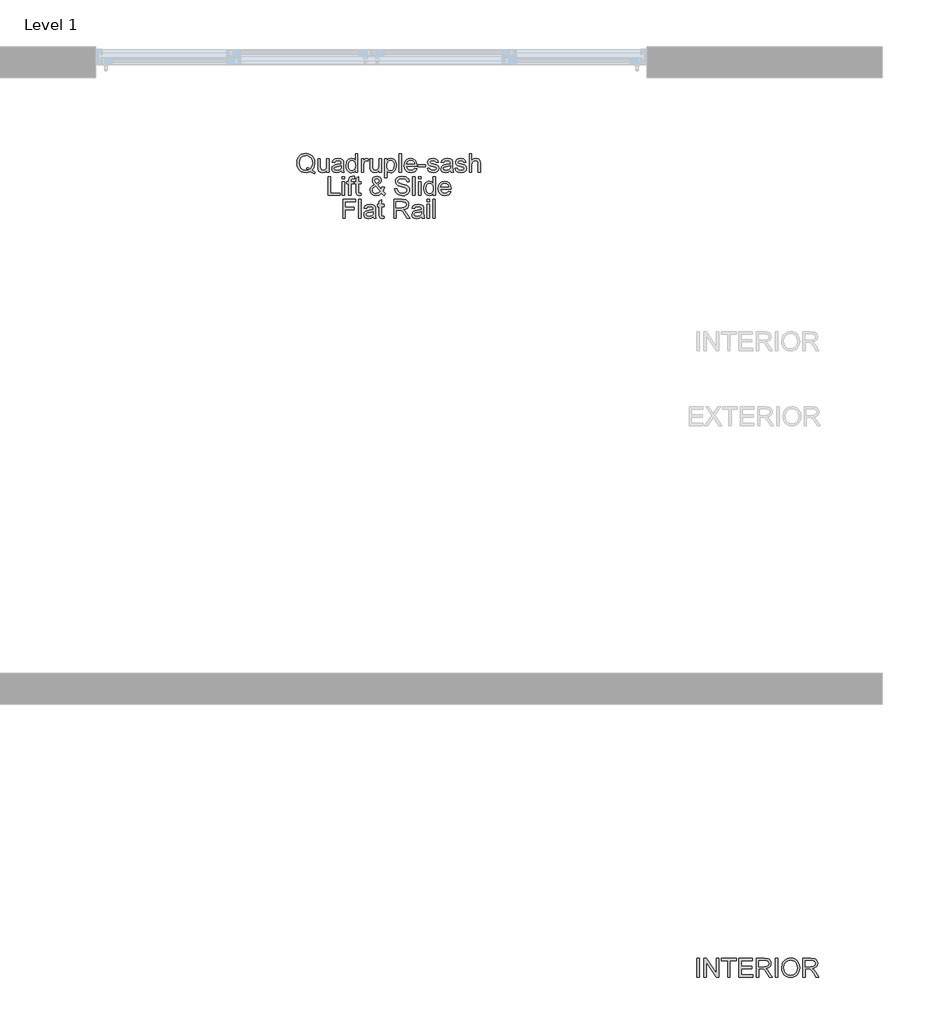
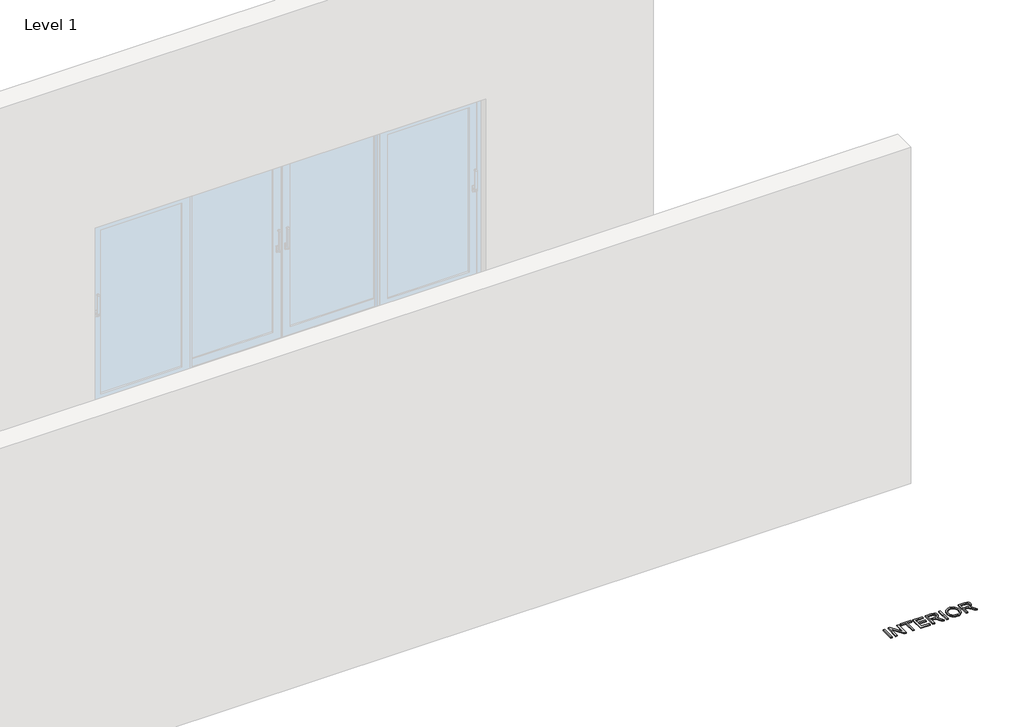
# One storey, part 10 of 11: 2 proxies.
"""IFC4 building model written with IfcOpenShell, lengths in millimetres."""

from ifc_helpers import new_model, si_unit, origin, origin_with_axes, place, context, project, spatial, polyline, outline, extrude, element, save

model = new_model("IFC4")

# Units and contexts
model_context = context("Model", 3, world=origin())
ifc_project = project(units=[si_unit("LENGTHUNIT", "METRE", prefix="MILLI")], contexts=[model_context])

# Site, building, storey
site = spatial("IfcSite", under=ifc_project)
building = spatial("IfcBuilding", under=site)
storey = spatial("IfcBuildingStorey", under=building, Name="Level 1", Elevation=0.0)

# Proxies
placement = place(None, origin())
element("IfcBuildingElementProxy", 1, Name="150mm Arial", ObjectType="150mm Arial", at=placement, inside=storey, context=model_context, shape_type="SweptSolid", body=[
    extrude(outline(polyline([(26177.951692, -7318.7131538), (26177.951692, -7168.0286886), (26196.7872501, -7168.0286886), (26196.7872501, -7318.7131538), (26177.951692, -7318.7131538)])), origin_with_axes(), (0.0, 0.0, 1.0), 10.0),
    extrude(outline(polyline([(26234.4583664, -7318.7131538), (26234.4583664, -7168.0286886), (26254.6182998, -7168.0286886), (26333.3450467, -7287.4063961), (26333.3450467, -7168.0286886), (26352.1806049, -7168.0286886), (26352.1806049, -7318.7131538), (26332.0206715, -7318.7131538), (26253.2939246, -7199.2986582), (26253.2939246, -7318.7131538), (26234.4583664, -7318.7131538)])), origin_with_axes(), (0.0, 0.0, 1.0), 10.0),
    extrude(outline(polyline([(26422.8139479, -7318.7131538), (26422.8139479, -7186.8642468), (26373.3706078, -7186.8642468), (26373.3706078, -7168.0286886), (26491.0928463, -7168.0286886), (26491.0928463, -7186.8642468), (26441.6495061, -7186.8642468), (26441.6495061, -7318.7131538), (26422.8139479, -7318.7131538)])), origin_with_axes(), (0.0, 0.0, 1.0), 10.0),
    extrude(outline(polyline([(26512.2828492, -7318.7131538), (26512.2828492, -7168.0286886), (26620.5873086, -7168.0286886), (26620.5873086, -7186.8642468), (26531.1184073, -7186.8642468), (26531.1184073, -7231.5986974), (26615.878419, -7231.5986974), (26615.878419, -7250.4342555), (26531.1184073, -7250.4342555), (26531.1184073, -7299.8775957), (26622.9417533, -7299.8775957), (26622.9417533, -7318.7131538), (26512.2828492, -7318.7131538)])), origin_with_axes(), (0.0, 0.0, 1.0), 10.0),
    extrude(outline(polyline([(26651.1950906, -7318.7131538), (26651.1950906, -7168.0286886), (26716.1262627, -7168.0286886), (26746.2741922, -7172.0937847), (26755.5540155, -7177.7223792), (26762.7553056, -7186.4779707), (26767.3768232, -7197.3350881), (26768.917329, -7209.2682603), (26766.3651477, -7224.1122988), (26758.7086036, -7236.4179515), (26745.7177707, -7245.4402575), (26727.1627226, -7250.4342555), (26737.8680886, -7258.4908712), (26753.1351914, -7277.8782524), (26778.2615317, -7318.7131538), (26756.372553, -7318.7131538), (26736.7644426, -7287.4799725), (26722.6009858, -7266.8050043), (26712.6497778, -7257.0377374), (26703.6918513, -7253.4508879), (26692.765756, -7252.7887003), (26670.0306487, -7252.7887003), (26670.0306487, -7318.7131538), (26651.1950906, -7318.7131538)]), holes=[polyline([(26670.0306487, -7233.9531422), (26712.1899254, -7233.9531422), (26733.692628, -7231.2859977), (26745.9063102, -7222.7511354), (26750.0817709, -7209.9672361), (26748.0906096, -7200.7793832), (26742.1171257, -7193.3757581), (26731.8394224, -7188.4921246), (26716.9356031, -7186.8642468), (26670.0306487, -7186.8642468), (26670.0306487, -7233.9531422)])]), origin_with_axes(), (0.0, 0.0, 1.0), 10.0),
    extrude(outline(polyline([(26804.2340005, -7318.7131538), (26804.2340005, -7168.0286886), (26823.0695587, -7168.0286886), (26823.0695587, -7318.7131538), (26804.2340005, -7318.7131538)])), origin_with_axes(), (0.0, 0.0, 1.0), 10.0),
    extrude(outline(polyline([(26853.6773407, -7245.357484), (26858.6989299, -7212.0365723), (26864.9759165, -7198.4180407), (26873.7636976, -7186.8274586), (26896.7655194, -7170.9625475), (26925.5982708, -7165.6742438), (26945.3627309, -7168.1574473), (26963.0854461, -7175.6070577), (26977.8007259, -7187.4988432), (26988.5428801, -7203.308572), (26995.1095737, -7222.2728888), (26997.2984716, -7243.6284386), (26994.9946106, -7265.269097), (26988.0830276, -7284.5001283), (26976.9454002, -7300.3374482), (26961.963406, -7311.7969723), (26944.3924422, -7318.749942), (26925.4879062, -7321.0675986), (26905.4199433, -7318.5062202), (26887.5960607, -7310.822085), (26872.917569, -7298.7095704), (26862.2857794, -7282.8630534), (26855.8294504, -7264.629902), (26853.6773407, -7245.357484)]), holes=[polyline([(26872.5128989, -7245.541425), (26876.2790908, -7269.1134638), (26887.5776666, -7287.0753023), (26904.5600192, -7298.4428559), (26925.3775416, -7302.2320405), (26946.4985666, -7298.4060677), (26963.5085104, -7286.9281495), (26974.7243127, -7268.4144881), (26978.4629135, -7243.4812858), (26976.8626268, -7226.8070344), (26972.0617667, -7212.3952572), (26964.1844935, -7200.6092378), (26953.3549673, -7191.8122596), (26940.2905579, -7186.3354164), (26925.7086354, -7184.509802), (26905.4475345, -7188.0276736), (26888.22146, -7198.5812883), (26876.4400392, -7217.3570656), (26872.5128989, -7245.541425)])]), origin_with_axes(), (0.0, 0.0, 1.0), 10.0),
    extrude(outline(polyline([(27023.1973641, -7318.7131538), (27023.1973641, -7168.0286886), (27088.1285362, -7168.0286886), (27118.2764657, -7172.0937847), (27127.5562891, -7177.7223792), (27134.7575791, -7186.4779707), (27139.3790967, -7197.3350881), (27140.9196025, -7209.2682603), (27138.3674212, -7224.1122988), (27130.7108772, -7236.4179515), (27117.7200442, -7245.4402575), (27099.1649961, -7250.4342555), (27109.8703621, -7258.4908712), (27125.1374649, -7277.8782524), (27150.2638052, -7318.7131538), (27128.3748265, -7318.7131538), (27108.7667162, -7287.4799725), (27094.6032593, -7266.8050043), (27084.6520514, -7257.0377374), (27075.6941248, -7253.4508879), (27064.7680295, -7252.7887003), (27042.0329222, -7252.7887003), (27042.0329222, -7318.7131538), (27023.1973641, -7318.7131538)]), holes=[polyline([(27042.0329222, -7233.9531422), (27084.1921989, -7233.9531422), (27105.6949015, -7231.2859977), (27117.9085837, -7222.7511354), (27122.0840444, -7209.9672361), (27120.0928831, -7200.7793832), (27114.1193992, -7193.3757581), (27103.8416959, -7188.4921246), (27088.9378766, -7186.8642468), (27042.0329222, -7186.8642468), (27042.0329222, -7233.9531422)])]), origin_with_axes(), (0.0, 0.0, 1.0), 10.0),
])
element("IfcBuildingElementProxy", 2, Name="150mm Arial", ObjectType="150mm Arial", at=placement, inside=storey, context=model_context, shape_type="SweptSolid", body=[
    extrude(outline(polyline([(23104.9272219, -879.5997474), (23128.2877286, -895.3083086), (23123.210957, -909.1038834), (23092.1985048, -891.4823358), (23074.7700953, -897.8834825), (23055.5942463, -900.0171981), (23036.3264268, -897.5569873), (23018.9164114, -890.1763547), (23004.3344888, -878.3397515), (22993.5509478, -862.5116287), (22986.8876852, -843.5611074), (22984.6665977, -822.3573089), (22986.8830867, -801.1351163), (22993.5325537, -781.9086836), (23004.274708, -765.855233), (23018.7692586, -754.151987), (23036.1148947, -747.0058793), (23055.4103053, -744.6238433), (23074.8574673, -747.0610616), (23092.2904753, -754.3727162), (23106.7620333, -766.0713637), (23117.3248451, -781.6695603), (23123.7811741, -800.3395715), (23125.9332838, -821.2536629), (23120.7093595, -854.1791015), (23114.1518629, -867.8367206), (23104.9272219, -879.5997474)]), holes=[polyline([(23060.7813825, -854.5469835), (23076.6187023, -860.534263), (23089.4026017, -868.8575931), (23102.6739447, -849.4334238), (23107.0977256, -822.2101561), (23105.5342272, -805.6324737), (23100.8437317, -791.2896744), (23093.1412025, -779.5450417), (23082.5416025, -770.7618591), (23069.7623017, -765.2850159), (23055.5206699, -763.4594015), (23034.9928546, -767.152017), (23018.291012, -778.2298636), (23007.1993699, -796.6377589), (23003.5021558, -822.3205207), (23007.1579831, -847.4514595), (23018.1254651, -865.9697195), (23034.7767239, -877.3786598), (23055.4838817, -881.18164), (23075.7541797, -877.318879), (23055.9253401, -868.9679577), (23060.7813825, -854.5469835)])]), origin_with_axes(), (0.0, 0.0, 1.0), 10.0),
    extrude(outline(polyline([(23222.4655193, -897.6627533), (23222.4655193, -878.6432542), (23207.7134513, -894.6737121), (23188.473223, -900.0171981), (23170.7597049, -896.2648018), (23158.5460227, -886.8470227), (23152.9358222, -872.9778715), (23151.8321763, -855.4666885), (23151.8321763, -787.0038492), (23170.6677344, -787.0038492), (23170.6677344, -846.6007324), (23171.8081686, -865.8041726), (23179.257779, -877.0797557), (23193.2924771, -881.18164), (23209.0194324, -876.9877852), (23219.4120988, -865.5650493), (23222.4655193, -844.5773814), (23222.4655193, -787.0038492), (23241.3010775, -787.0038492), (23241.3010775, -897.6627533), (23222.4655193, -897.6627533)])), origin_with_axes(), (0.0, 0.0, 1.0), 10.0),
    extrude(outline(polyline([(23337.833313, -883.5360847), (23319.567972, -896.30159), (23299.3896445, -900.0171981), (23283.6488937, -897.782315), (23272.0376182, -891.0776656), (23264.8777149, -880.8965314), (23262.4910804, -868.2321937), (23266.096324, -853.3329729), (23275.5692853, -842.5172423), (23288.7578549, -836.3368247), (23305.0550273, -833.5041334), (23337.7229484, -827.0294103), (23337.833313, -822.8355555), (23336.536529, -814.4294519), (23332.6461769, -808.9296161), (23323.9457677, -804.846126), (23311.824056, -803.4849626), (23292.7677686, -807.1086002), (23283.6810833, -819.966076), (23264.8455252, -817.6116312), (23272.9941114, -799.2175314), (23289.4016484, -788.438589), (23314.2520771, -784.6494044), (23337.0791549, -787.9971306), (23349.9734189, -796.4032342), (23355.7491662, -809.1871335), (23356.6688712, -825.6682469), (23356.6688712, -849.10233), (23357.6253644, -881.8254334), (23361.3777607, -897.6627533), (23342.5422026, -897.6627533), (23337.833313, -883.5360847)]), holes=[polyline([(23337.833313, -845.8649684), (23307.4462602, -851.6407157), (23291.2410583, -854.6941363), (23283.9018125, -859.6605432), (23281.3266386, -866.9078185), (23286.936839, -877.0981498), (23303.3995583, -881.18164), (23322.4558456, -876.6750855), (23334.7431043, -865.7673844), (23337.7229484, -851.1992574), (23337.833313, -845.8649684)])]), origin_with_axes(), (0.0, 0.0, 1.0), 10.0),
    extrude(outline(polyline([(23450.8466619, -897.6627533), (23450.8466619, -879.894053), (23438.3846594, -894.9864118), (23421.1585849, -900.0171981), (23408.9816909, -898.1961822), (23397.8348664, -892.7331346), (23388.3986933, -884.0097328), (23381.3537531, -872.4076544), (23376.9667603, -858.3959489), (23375.5044293, -842.4436659), (23380.8939006, -812.4612833), (23387.6261411, -800.5694978), (23397.0439201, -791.8231033), (23408.4344664, -786.4428292), (23421.0850085, -784.6494044), (23438.4490387, -789.7813583), (23450.8466619, -803.1170806), (23450.8466619, -746.9782881), (23469.6822201, -746.9782881), (23469.6822201, -897.6627533), (23450.8466619, -897.6627533)]), holes=[polyline([(23394.3399875, -842.3700895), (23396.464506, -859.4076244), (23402.8380616, -871.5247376), (23412.0994908, -878.7674144), (23422.8876303, -881.18164), (23433.6711713, -878.877779), (23442.6980757, -871.966196), (23448.8095154, -860.3181323), (23450.8466619, -843.8048292), (23448.7727272, -825.7510203), (23442.5509229, -813.2338354), (23433.2940922, -805.9221808), (23422.1150781, -803.4849626), (23411.216574, -805.8256118), (23402.2862386, -812.8475594), (23396.3265503, -824.9094903), (23394.3399875, -842.3700895)])]), origin_with_axes(), (0.0, 0.0, 1.0), 10.0),
    extrude(outline(polyline([(23497.9355573, -897.6627533), (23497.9355573, -787.0038492), (23514.4166707, -787.0038492), (23514.4166707, -803.374598), (23526.1153182, -788.2914362), (23537.887542, -784.6494044), (23556.7966766, -790.4619399), (23550.5058944, -807.3477235), (23537.2621426, -803.4849626), (23526.6119588, -807.2005707), (23519.824536, -817.5012666), (23516.7711155, -839.5006099), (23516.7711155, -897.6627533), (23497.9355573, -897.6627533)])), origin_with_axes(), (0.0, 0.0, 1.0), 10.0),
    extrude(outline(polyline([(23639.2022435, -897.6627533), (23639.2022435, -878.6432542), (23624.4501755, -894.6737121), (23605.2099471, -900.0171981), (23587.496429, -896.2648018), (23575.2827468, -886.8470227), (23569.6725464, -872.9778715), (23568.5689004, -855.4666885), (23568.5689004, -787.0038492), (23587.4044585, -787.0038492), (23587.4044585, -846.6007324), (23588.5448927, -865.8041726), (23595.9945031, -877.0797557), (23610.0292013, -881.18164), (23625.7561565, -876.9877852), (23636.1488229, -865.5650493), (23639.2022435, -844.5773814), (23639.2022435, -787.0038492), (23658.0378016, -787.0038492), (23658.0378016, -897.6627533), (23639.2022435, -897.6627533)])), origin_with_axes(), (0.0, 0.0, 1.0), 10.0),
    extrude(outline(polyline([(23683.9366941, -940.0427592), (23683.9366941, -787.0038492), (23702.7722522, -787.0038492), (23702.7722522, -805.4715254), (23715.7952749, -789.8549347), (23733.3800342, -784.6494044), (23746.1179483, -786.4704203), (23757.2555757, -791.9334679), (23766.3238669, -800.7074535), (23772.8537723, -812.4612833), (23778.1144848, -841.4871727), (23776.6291613, -857.5958055), (23772.1731906, -872.0029842), (23764.8891271, -883.9775431), (23754.9195251, -892.7883169), (23743.3082496, -898.2099778), (23731.0991659, -900.0171981), (23714.710023, -895.1795499), (23702.7722522, -882.9474735), (23702.7722522, -940.0427592), (23683.9366941, -940.0427592)]), holes=[polyline([(23702.7722522, -843.2162181), (23704.8093988, -860.1020016), (23710.9208384, -871.9110137), (23719.9385458, -878.8639834), (23730.6944957, -881.18164), (23741.6251895, -878.7812099), (23750.8728231, -871.5799199), (23757.1774008, -859.3386465), (23759.2789267, -841.8182665), (23757.2279846, -825.0244534), (23751.0751582, -813.0498945), (23742.0712464, -805.8761955), (23731.4670479, -803.4849626), (23720.8214626, -806.0279469), (23711.4726614, -813.6568997), (23704.9473545, -826.1326979), (23702.7722522, -843.2162181)])]), origin_with_axes(), (0.0, 0.0, 1.0), 10.0),
    extrude(outline(polyline([(23799.3044878, -897.6627533), (23799.3044878, -746.9782881), (23818.1400459, -746.9782881), (23818.1400459, -897.6627533), (23799.3044878, -897.6627533)])), origin_with_axes(), (0.0, 0.0, 1.0), 10.0),
    extrude(outline(polyline([(23923.8693313, -864.7005266), (23942.3370075, -867.0549713), (23935.6829419, -880.9701078), (23925.0649478, -891.3719712), (23910.7221485, -897.8558914), (23892.8936673, -900.0171981), (23870.7931565, -896.2877944), (23853.7878113, -885.0995832), (23842.9444894, -867.1791315), (23839.3300488, -843.2530063), (23842.9812776, -818.5221391), (23853.9349641, -800.0268718), (23870.710383, -788.4937713), (23891.8268096, -784.6494044), (23912.285647, -788.4845742), (23928.6334032, -799.9900836), (23939.3525648, -818.4485627), (23942.9256187, -843.1426417), (23942.8152541, -848.2194132), (23858.165607, -848.2194132), (23861.4259612, -862.3184907), (23868.9997318, -872.6835659), (23879.9304255, -879.0571214), (23893.2615493, -881.18164), (23911.7292255, -877.2453026), (23923.8693313, -864.7005266)]), holes=[polyline([(23858.165607, -829.383855), (23924.0900605, -829.383855), (23921.5424777, -819.4326471), (23916.5484796, -812.3141305), (23905.5672021, -805.6922545), (23891.7532332, -803.4849626), (23879.0567058, -805.2461976), (23868.5582734, -810.5299028), (23861.2604143, -818.765861), (23858.165607, -829.383855)])]), origin_with_axes(), (0.0, 0.0, 1.0), 10.0),
    extrude(outline(polyline([(23952.3433978, -852.9283027), (23952.3433978, -834.0927446), (24011.204517, -834.0927446), (24011.204517, -852.9283027), (23952.3433978, -852.9283027)])), origin_with_axes(), (0.0, 0.0, 1.0), 10.0),
    extrude(outline(polyline([(24025.3311856, -864.7005266), (24044.1667438, -862.3460818), (24047.1373909, -870.4026975), (24052.885547, -876.3255976), (24072.8615394, -881.18164), (24092.0649795, -876.7302678), (24098.3189735, -866.2824192), (24096.7462779, -861.4815591), (24092.0281913, -857.8211333), (24072.6408102, -852.4500561), (24044.2771084, -843.2346122), (24031.8978792, -832.4740638), (24027.6856304, -817.2805374), (24031.0701447, -803.2458393), (24040.3039828, -792.5220791), (24052.2785418, -786.9486669), (24068.4837436, -784.6494044), (24091.4027919, -788.3466185), (24105.9709189, -798.3530087), (24112.4456421, -815.2571864), (24093.6100839, -817.6116312), (24086.5283555, -807.2189648), (24069.9552716, -803.4849626), (24051.9290539, -807.0534179), (24046.5211885, -815.367551), (24048.7652687, -820.8489927), (24055.7918148, -825.0060593), (24072.0154108, -829.015973), (24099.6617427, -837.8819291), (24112.5008244, -847.9251076), (24117.1545316, -864.2958564), (24111.691484, -882.3220741), (24095.9277405, -895.4002791), (24072.604022, -900.0171981), (24053.612114, -897.791512), (24039.7521598, -891.1144538), (24030.4999276, -880.0595999), (24025.3311856, -864.7005266)])), origin_with_axes(), (0.0, 0.0, 1.0), 10.0),
    extrude(outline(polyline([(24208.9778776, -883.5360847), (24190.7125365, -896.30159), (24170.5342091, -900.0171981), (24154.7934582, -897.782315), (24143.1821828, -891.0776656), (24136.0222794, -880.8965314), (24133.635645, -868.2321937), (24137.2408885, -853.3329729), (24146.7138499, -842.5172423), (24159.9024194, -836.3368247), (24176.1995918, -833.5041334), (24208.867513, -827.0294103), (24208.9778776, -822.8355555), (24207.6810936, -814.4294519), (24203.7907415, -808.9296161), (24195.0903323, -804.846126), (24182.9686205, -803.4849626), (24163.9123332, -807.1086002), (24154.8256479, -819.966076), (24135.9900898, -817.6116312), (24144.1386759, -799.2175314), (24160.5462129, -788.438589), (24185.3966417, -784.6494044), (24208.2237195, -787.9971306), (24221.1179834, -796.4032342), (24226.8937308, -809.1871335), (24227.8134358, -825.6682469), (24227.8134358, -849.10233), (24228.7699289, -881.8254334), (24232.5223253, -897.6627533), (24213.6867671, -897.6627533), (24208.9778776, -883.5360847)]), holes=[polyline([(24208.9778776, -845.8649684), (24178.5908248, -851.6407157), (24162.3856229, -854.6941363), (24155.0463771, -859.6605432), (24152.4712031, -866.9078185), (24158.0814036, -877.0981498), (24174.5441229, -881.18164), (24193.6004102, -876.6750855), (24205.8876688, -865.7673844), (24208.867513, -851.1992574), (24208.9778776, -845.8649684)])]), origin_with_axes(), (0.0, 0.0, 1.0), 10.0),
    extrude(outline(polyline([(24246.6489939, -864.7005266), (24265.4845521, -862.3460818), (24268.4551992, -870.4026975), (24274.2033553, -876.3255976), (24294.1793477, -881.18164), (24313.3827878, -876.7302678), (24319.6367817, -866.2824192), (24318.0640862, -861.4815591), (24313.3459996, -857.8211333), (24293.9586185, -852.4500561), (24265.5949167, -843.2346122), (24253.2156875, -832.4740638), (24249.0034387, -817.2805374), (24252.387953, -803.2458393), (24261.6217911, -792.5220791), (24273.5963501, -786.9486669), (24289.8015519, -784.6494044), (24312.7206002, -788.3466185), (24327.2887272, -798.3530087), (24333.7634504, -815.2571864), (24314.9278922, -817.6116312), (24307.8461638, -807.2189648), (24291.2730799, -803.4849626), (24273.2468622, -807.0534179), (24267.8389968, -815.367551), (24270.083077, -820.8489927), (24277.1096231, -825.0060593), (24293.3332191, -829.015973), (24320.979551, -837.8819291), (24333.8186327, -847.9251076), (24338.4723399, -864.2958564), (24333.0092923, -882.3220741), (24317.2455488, -895.4002791), (24293.9218303, -900.0171981), (24274.9299223, -897.791512), (24261.0699681, -891.1144538), (24251.8177359, -880.0595999), (24246.6489939, -864.7005266)])), origin_with_axes(), (0.0, 0.0, 1.0), 10.0),
    extrude(outline(polyline([(24359.6623428, -897.6627533), (24359.6623428, -746.9782881), (24378.497901, -746.9782881), (24378.497901, -802.3813166), (24393.1855896, -789.0823825), (24411.2761867, -784.6494044), (24432.4294015, -789.4870527), (24445.2684831, -802.8595632), (24449.1312441, -827.6180215), (24449.1312441, -897.6627533), (24430.2956859, -897.6627533), (24430.2956859, -829.567796), (24428.7965668, -817.7771781), (24424.2992094, -809.7021683), (24417.0519341, -805.039264), (24407.3030612, -803.4849626), (24391.8704115, -807.6788173), (24381.5697156, -819.046371), (24378.497901, -838.8752105), (24378.497901, -897.6627533), (24359.6623428, -897.6627533)])), origin_with_axes(), (0.0, 0.0, 1.0), 10.0),
    extrude(outline(polyline([(23233.0605208, -1080.6249801), (23233.0605208, -929.9405149), (23251.8960789, -929.9405149), (23251.8960789, -1061.789422), (23327.2383116, -1061.789422), (23327.2383116, -1080.6249801), (23233.0605208, -1080.6249801)])), origin_with_axes(), (0.0, 0.0, 1.0), 10.0),
    extrude(outline(polyline([(23346.0738697, -948.776073), (23346.0738697, -929.9405149), (23364.9094279, -929.9405149), (23364.9094279, -948.776073), (23346.0738697, -948.776073)])), origin_with_axes(), (0.0, 0.0, 1.0), 10.0),
    extrude(outline(polyline([(23346.0738697, -1080.6249801), (23346.0738697, -969.966076), (23364.9094279, -969.966076), (23364.9094279, -1080.6249801), (23346.0738697, -1080.6249801)])), origin_with_axes(), (0.0, 0.0, 1.0), 10.0),
    extrude(outline(polyline([(23494.4038902, -1064.9164189), (23496.7583349, -1081.1768031), (23482.6684545, -1082.9794249), (23466.8863169, -1079.8524279), (23459.0136422, -1071.6486594), (23456.7327739, -1050.2747155), (23456.7327739, -988.8016341), (23442.6061052, -988.8016341), (23442.6061052, -969.966076), (23456.7327739, -969.966076), (23456.7327739, -943.0739021), (23475.568332, -932.0006541), (23475.568332, -969.966076), (23494.4038902, -969.966076), (23494.4038902, -988.8016341), (23475.568332, -988.8016341), (23475.568332, -1049.7228925), (23476.5616134, -1059.4349772), (23479.7805809, -1062.8746738), (23486.2001217, -1064.1438667), (23494.4038902, -1064.9164189)])), origin_with_axes(), (0.0, 0.0, 1.0), 10.0),
    extrude(outline(polyline([(23397.8716546, -1080.6249801), (23397.8716546, -988.8016341), (23381.3905412, -988.8016341), (23381.3905412, -969.966076), (23397.8716546, -969.966076), (23397.8716546, -958.8192515), (23399.8582174, -943.1106903), (23409.4967257, -931.8902895), (23428.4794366, -927.5860701), (23445.6595258, -929.6462093), (23442.9004108, -947.3045451), (23432.047892, -946.4216283), (23420.1836976, -949.5486252), (23416.7072128, -961.2104845), (23416.7072128, -969.966076), (23437.8972157, -969.966076), (23437.8972157, -988.8016341), (23416.7072128, -988.8016341), (23416.7072128, -1080.6249801), (23397.8716546, -1080.6249801)])), origin_with_axes(), (0.0, 0.0, 1.0), 10.0),
    extrude(outline(polyline([(23658.5160482, -1062.0101512), (23638.5400559, -1077.7371064), (23615.1795492, -1082.9794249), (23594.3942165, -1079.0982698), (23578.3913497, -1067.4548047), (23570.1415959, -1054.054703), (23567.391678, -1039.1646793), (23569.6035685, -1025.9669127), (23576.23924, -1014.1119154), (23587.2711013, -1003.6088844), (23602.6715613, -994.4670168), (23589.51978, -975.4107295), (23586.2272362, -961.2840609), (23588.8208042, -948.5645409), (23596.6015084, -937.6292486), (23608.3093529, -930.0968647), (23622.6843419, -927.5860701), (23636.3603551, -929.9865001), (23647.2956474, -937.1877902), (23654.4693463, -947.7552005), (23656.8605792, -960.2539913), (23655.0901471, -970.7478252), (23649.7788508, -980.4507128), (23628.5336656, -997.4836492), (23655.7937215, -1031.4391574), (23663.9239135, -1010.5802482), (23682.7594717, -1014.6637384), (23669.4421435, -1045.6761906), (23692.1772508, -1068.4848743), (23678.0505822, -1082.9794249), (23658.5160482, -1062.0101512)]), holes=[polyline([(23619.0055219, -985.6010608), (23634.4933539, -973.9208074), (23638.0250211, -962.8291653), (23633.3713138, -951.0017591), (23621.7278487, -946.4216283), (23609.8268662, -950.9649709), (23605.0627943, -962.0566131), (23606.6814751, -968.9544005), (23611.5743056, -976.6247401), (23619.0055219, -985.6010608)]), polyline([(23645.8976958, -1048.4353055), (23612.2732814, -1006.4599699), (23591.5799192, -1022.2421075), (23586.2272362, -1036.6630817), (23588.0574491, -1045.5474319), (23593.5480879, -1054.7628758), (23602.3956499, -1061.798619), (23614.2966324, -1064.1438667), (23631.6054803, -1059.766071), (23645.8976958, -1048.4353055)])]), origin_with_axes(), (0.0, 0.0, 1.0), 10.0),
    extrude(outline(polyline([(23765.1650386, -1028.8271952), (23784.0005968, -1028.8271952), (23790.0706497, -1047.6811474), (23804.8962941, -1059.6005241), (23827.4842486, -1064.1438667), (23847.1659353, -1060.7041701), (23859.8762583, -1051.2496028), (23864.0517189, -1038.6128563), (23860.924722, -1026.8590265), (23848.1224285, -1018.3057701), (23820.6968258, -1011.1136771), (23791.1742957, -1001.8246567), (23775.1530348, -987.8083527), (23769.8739282, -969.0831592), (23771.5064045, -958.0512978), (23776.4038336, -947.7643976), (23784.4374566, -939.0455943), (23795.478515, -932.7180239), (23823.4007585, -927.5860701), (23853.1992001, -932.9571472), (23864.621936, -939.5882202), (23873.0648278, -948.7392848), (23878.4083138, -959.840124), (23880.5328323, -972.3205207), (23861.6972742, -972.3205207), (23858.2391834, -961.0817258), (23851.0286963, -952.9699278), (23839.7623102, -948.0587031), (23824.1365224, -946.4216283), (23808.1428527, -948.040309), (23797.1707722, -952.8963514), (23790.8248078, -960.0424591), (23788.7094863, -968.5313362), (23790.2086054, -975.7694144), (23794.7059628, -981.591147), (23825.4608976, -992.1125721), (23858.7910064, -1001.5671393), (23869.5285621, -1008.4005474), (23877.0195593, -1016.8342421), (23881.4203476, -1026.7762531), (23882.8872771, -1038.1346097), (23881.1996184, -1049.7458851), (23876.1366425, -1060.6673819), (23867.9052828, -1070.0667668), (23856.7124731, -1077.1117071), (23843.2525906, -1081.5124954), (23828.2200126, -1082.9794249), (23809.766132, -1081.3975323), (23794.5772041, -1076.6518546), (23782.478485, -1068.7239976), (23773.2952307, -1057.5955672), (23767.3999217, -1044.0391157), (23765.1650386, -1028.8271952)])), origin_with_axes(), (0.0, 0.0, 1.0), 10.0),
    extrude(outline(polyline([(23908.7861695, -1080.6249801), (23908.7861695, -929.9405149), (23927.6217277, -929.9405149), (23927.6217277, -1080.6249801), (23908.7861695, -1080.6249801)])), origin_with_axes(), (0.0, 0.0, 1.0), 10.0),
    extrude(outline(polyline([(23955.8750649, -948.776073), (23955.8750649, -929.9405149), (23974.7106231, -929.9405149), (23974.7106231, -948.776073), (23955.8750649, -948.776073)])), origin_with_axes(), (0.0, 0.0, 1.0), 10.0),
    extrude(outline(polyline([(23955.8750649, -1080.6249801), (23955.8750649, -969.966076), (23974.7106231, -969.966076), (23974.7106231, -1080.6249801), (23955.8750649, -1080.6249801)])), origin_with_axes(), (0.0, 0.0, 1.0), 10.0),
    extrude(outline(polyline([(24071.2428586, -1080.6249801), (24071.2428586, -1062.8562797), (24058.780856, -1077.9486386), (24041.5547816, -1082.9794249), (24029.3778876, -1081.158409), (24018.2310631, -1075.6953614), (24008.7948899, -1066.9719596), (24001.7499497, -1055.3698811), (23997.3629569, -1041.3581756), (23995.900626, -1025.4058926), (24001.2900972, -995.42351), (24008.0223377, -983.5317245), (24017.4401168, -974.7853301), (24028.8306631, -969.4050559), (24041.4812052, -967.6116312), (24058.8452354, -972.743585), (24071.2428586, -986.0793073), (24071.2428586, -929.9405149), (24090.0784168, -929.9405149), (24090.0784168, -1080.6249801), (24071.2428586, -1080.6249801)]), holes=[polyline([(24014.7361841, -1025.3323162), (24016.8607027, -1042.3698511), (24023.2342582, -1054.4869644), (24032.4956875, -1061.7296411), (24043.283827, -1064.1438667), (24054.067368, -1061.8400057), (24063.0942724, -1054.9284227), (24069.2057121, -1043.2803591), (24071.2428586, -1026.767056), (24069.1689239, -1008.7132471), (24062.9471196, -996.1960622), (24053.6902889, -988.8844076), (24042.5112748, -986.4471893), (24031.6127707, -988.7878385), (24022.6824352, -995.8097861), (24016.7227469, -1007.871717), (24014.7361841, -1025.3323162)])]), origin_with_axes(), (0.0, 0.0, 1.0), 10.0),
    extrude(outline(polyline([(24195.8077022, -1047.6627533), (24214.2753783, -1050.0171981), (24207.6213127, -1063.9323346), (24197.0033187, -1074.334198), (24182.6605194, -1080.8181182), (24164.8320382, -1082.9794249), (24142.7315273, -1079.2500212), (24125.7261821, -1068.06181), (24114.8828603, -1050.1413583), (24111.2684197, -1026.215233), (24114.9196485, -1001.4843659), (24125.8733349, -982.9890986), (24142.6487539, -971.455998), (24163.7651804, -967.6116312), (24184.2240178, -971.446801), (24200.571774, -982.9523104), (24211.2909356, -1001.4107895), (24214.8639895, -1026.1048684), (24214.7536249, -1031.18164), (24130.1039778, -1031.18164), (24133.364332, -1045.2807174), (24140.9381026, -1055.6457926), (24151.8687964, -1062.0193482), (24165.1999202, -1064.1438667), (24183.6675963, -1060.2075294), (24195.8077022, -1047.6627533)]), holes=[polyline([(24130.1039778, -1012.3460818), (24196.0284314, -1012.3460818), (24193.4808486, -1002.3948738), (24188.4868505, -995.2763572), (24177.5055729, -988.6544813), (24163.691604, -986.4471893), (24150.9950766, -988.2084244), (24140.4966442, -993.4921296), (24133.1987851, -1001.7280877), (24130.1039778, -1012.3460818)])]), origin_with_axes(), (0.0, 0.0, 1.0), 10.0),
    extrude(outline(polyline([(23350.7827593, -1263.5872069), (23350.7827593, -1112.9027417), (23452.0238843, -1112.9027417), (23452.0238843, -1131.7382998), (23369.6183174, -1131.7382998), (23369.6183174, -1176.4727504), (23440.2516605, -1176.4727504), (23440.2516605, -1195.3083086), (23369.6183174, -1195.3083086), (23369.6183174, -1263.5872069), (23350.7827593, -1263.5872069)])), origin_with_axes(), (0.0, 0.0, 1.0), 10.0),
    extrude(outline(polyline([(23475.568332, -1263.5872069), (23475.568332, -1112.9027417), (23494.4038902, -1112.9027417), (23494.4038902, -1263.5872069), (23475.568332, -1263.5872069)])), origin_with_axes(), (0.0, 0.0, 1.0), 10.0),
    extrude(outline(polyline([(23593.2905705, -1249.4605383), (23575.0252294, -1262.2260435), (23554.846902, -1265.9416516), (23539.1061511, -1263.7067685), (23527.4948756, -1257.0021192), (23520.3349723, -1246.8209849), (23517.9483379, -1234.1566473), (23521.5535814, -1219.2574265), (23531.0265428, -1208.4416958), (23544.2151123, -1202.2612783), (23560.5122847, -1199.4285869), (23593.1802059, -1192.9538638), (23593.2905705, -1188.7600091), (23591.9937864, -1180.3539055), (23588.1034343, -1174.8540696), (23579.4030252, -1170.7705795), (23567.2813134, -1169.4094161), (23548.2250261, -1173.0330538), (23539.1383408, -1185.8905295), (23520.3027826, -1183.5360847), (23528.4513688, -1165.141985), (23544.8589058, -1154.3630425), (23569.7093346, -1150.573858), (23592.5364124, -1153.9215841), (23605.4306763, -1162.3276877), (23611.2064236, -1175.111587), (23612.1261286, -1191.5927004), (23612.1261286, -1215.0267835), (23613.0826218, -1247.749887), (23616.8350182, -1263.5872069), (23597.99946, -1263.5872069), (23593.2905705, -1249.4605383)]), holes=[polyline([(23593.2905705, -1211.789422), (23562.9035177, -1217.5651693), (23546.6983158, -1220.6185898), (23539.35907, -1225.5849968), (23536.783896, -1232.8322721), (23542.3940964, -1243.0226033), (23558.8568157, -1247.1060935), (23577.9131031, -1242.5995391), (23590.2003617, -1231.6918379), (23593.1802059, -1217.1237109), (23593.2905705, -1211.789422)])]), origin_with_axes(), (0.0, 0.0, 1.0), 10.0),
    extrude(outline(polyline([(23678.0505822, -1247.8786457), (23680.4050269, -1264.1390299), (23666.3151465, -1265.9416516), (23650.5330089, -1262.8146547), (23642.6603342, -1254.6108862), (23640.3794659, -1233.2369423), (23640.3794659, -1171.7638609), (23626.2527972, -1171.7638609), (23626.2527972, -1152.9283027), (23640.3794659, -1152.9283027), (23640.3794659, -1126.0361289), (23659.215024, -1114.9628808), (23659.215024, -1152.9283027), (23678.0505822, -1152.9283027), (23678.0505822, -1171.7638609), (23659.215024, -1171.7638609), (23659.215024, -1232.6851193), (23660.2083054, -1242.397204), (23663.4272729, -1245.8369006), (23669.8468137, -1247.1060935), (23678.0505822, -1247.8786457)])), origin_with_axes(), (0.0, 0.0, 1.0), 10.0),
    extrude(outline(polyline([(23758.1017043, -1263.5872069), (23758.1017043, -1112.9027417), (23823.0328765, -1112.9027417), (23853.180806, -1116.9678377), (23862.4606293, -1122.5964322), (23869.6619193, -1131.3520237), (23874.2834369, -1142.2091411), (23875.8239428, -1154.1423133), (23873.2717614, -1168.9863518), (23865.6152174, -1181.2920046), (23852.6243844, -1190.3143105), (23834.0693363, -1195.3083086), (23844.7747024, -1203.3649243), (23860.0418052, -1222.7523054), (23885.1681454, -1263.5872069), (23863.2791667, -1263.5872069), (23843.6710564, -1232.3540255), (23829.5075996, -1211.6790574), (23819.5563916, -1201.9117904), (23810.598465, -1198.3249409), (23799.6723698, -1197.6627533), (23776.9372625, -1197.6627533), (23776.9372625, -1263.5872069), (23758.1017043, -1263.5872069)]), holes=[polyline([(23776.9372625, -1178.8271952), (23819.0965391, -1178.8271952), (23840.5992417, -1176.1600507), (23852.812924, -1167.6251884), (23856.9883846, -1154.8412891), (23854.9972233, -1145.6534363), (23849.0237394, -1138.2498111), (23838.7460362, -1133.3661776), (23823.8422168, -1131.7382998), (23776.9372625, -1131.7382998), (23776.9372625, -1178.8271952)])]), origin_with_axes(), (0.0, 0.0, 1.0), 10.0),
    extrude(outline(polyline([(23977.0650678, -1249.4605383), (23958.7997268, -1262.2260435), (23938.6213993, -1265.9416516), (23922.8806485, -1263.7067685), (23911.269373, -1257.0021192), (23904.1094697, -1246.8209849), (23901.7228352, -1234.1566473), (23905.3280788, -1219.2574265), (23914.8010402, -1208.4416958), (23927.9896097, -1202.2612783), (23944.2867821, -1199.4285869), (23976.9547032, -1192.9538638), (23977.0650678, -1188.7600091), (23975.7682838, -1180.3539055), (23971.8779317, -1174.8540696), (23963.1775225, -1170.7705795), (23951.0558108, -1169.4094161), (23931.9995234, -1173.0330538), (23922.9128382, -1185.8905295), (23904.07728, -1183.5360847), (23912.2258662, -1165.141985), (23928.6334032, -1154.3630425), (23953.4838319, -1150.573858), (23976.3109097, -1153.9215841), (23989.2051737, -1162.3276877), (23994.980921, -1175.111587), (23995.900626, -1191.5927004), (23995.900626, -1215.0267835), (23996.8571192, -1247.749887), (24000.6095155, -1263.5872069), (23981.7739574, -1263.5872069), (23977.0650678, -1249.4605383)]), holes=[polyline([(23977.0650678, -1211.789422), (23946.678015, -1217.5651693), (23930.4728132, -1220.6185898), (23923.1335673, -1225.5849968), (23920.5583934, -1232.8322721), (23926.1685938, -1243.0226033), (23942.6313131, -1247.1060935), (23961.6876004, -1242.5995391), (23973.9748591, -1231.6918379), (23976.9547032, -1217.1237109), (23977.0650678, -1211.789422)])]), origin_with_axes(), (0.0, 0.0, 1.0), 10.0),
    extrude(outline(polyline([(24021.7995185, -1131.7382998), (24021.7995185, -1112.9027417), (24040.6350766, -1112.9027417), (24040.6350766, -1131.7382998), (24021.7995185, -1131.7382998)])), origin_with_axes(), (0.0, 0.0, 1.0), 10.0),
    extrude(outline(polyline([(24021.7995185, -1263.5872069), (24021.7995185, -1152.9283027), (24040.6350766, -1152.9283027), (24040.6350766, -1263.5872069), (24021.7995185, -1263.5872069)])), origin_with_axes(), (0.0, 0.0, 1.0), 10.0),
    extrude(outline(polyline([(24068.8884138, -1263.5872069), (24068.8884138, -1112.9027417), (24087.723972, -1112.9027417), (24087.723972, -1263.5872069), (24068.8884138, -1263.5872069)])), origin_with_axes(), (0.0, 0.0, 1.0), 10.0),
])

save(model, "model.ifc")
